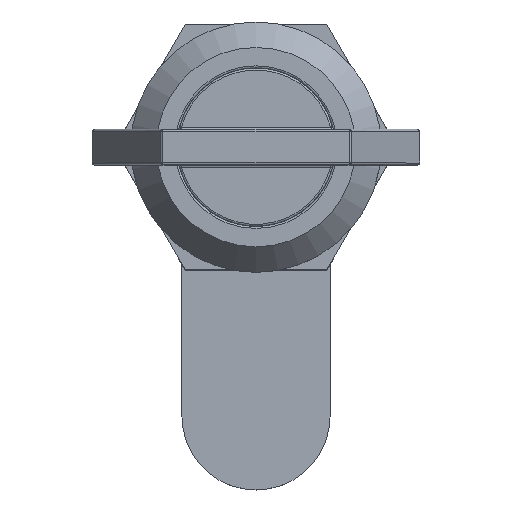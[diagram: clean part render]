
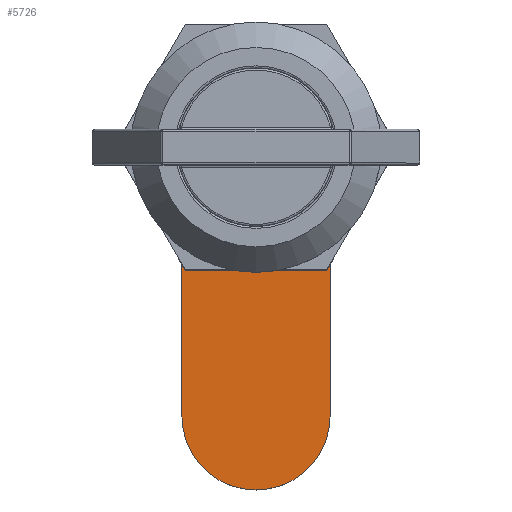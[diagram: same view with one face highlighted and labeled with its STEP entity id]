
A CAD part, top view. The second image highlights one B-rep face of the part: STEP entity #5726.
In plain terms, the highlighted planar face has unit normal (0, 0, 1) as drawn and (0, 0, -1) by its records, which use the part's own axes.
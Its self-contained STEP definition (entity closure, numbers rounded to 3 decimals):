
#264=LINE('',#9200,#854);
#268=LINE('',#9208,#858);
#271=LINE('',#9214,#861);
#274=LINE('',#9219,#864);
#278=LINE('',#9232,#868);
#282=LINE('',#9243,#872);
#854=VECTOR('',#7234,7.6);
#858=VECTOR('',#7240,7.6);
#861=VECTOR('',#7245,7.6);
#864=VECTOR('',#7250,7.6);
#868=VECTOR('',#7262,26.);
#872=VECTOR('',#7274,26.);
#1355=PLANE('',#6235);
#1548=FACE_BOUND('',#2085,.T.);
#1721=FACE_OUTER_BOUND('',#2084,.T.);
#2084=EDGE_LOOP('',(#4524,#4525,#4526,#4527));
#2085=EDGE_LOOP('',(#4528,#4529,#4530,#4531));
#2431=CIRCLE('',#6227,7.25);
#2433=CIRCLE('',#6231,7.25);
#2675=VERTEX_POINT('',#9198);
#2676=VERTEX_POINT('',#9199);
#2679=VERTEX_POINT('',#9207);
#2681=VERTEX_POINT('',#9213);
#2683=VERTEX_POINT('',#9222);
#2684=VERTEX_POINT('',#9223);
#2687=VERTEX_POINT('',#9231);
#2689=VERTEX_POINT('',#9237);
#3329=EDGE_CURVE('',#2675,#2676,#264,.T.);
#3333=EDGE_CURVE('',#2679,#2675,#268,.T.);
#3336=EDGE_CURVE('',#2681,#2679,#271,.T.);
#3339=EDGE_CURVE('',#2676,#2681,#274,.T.);
#3341=EDGE_CURVE('',#2683,#2684,#2431,.T.);
#3345=EDGE_CURVE('',#2687,#2683,#278,.T.);
#3348=EDGE_CURVE('',#2689,#2687,#2433,.T.);
#3351=EDGE_CURVE('',#2684,#2689,#282,.T.);
#4524=ORIENTED_EDGE('',*,*,#3351,.F.);
#4525=ORIENTED_EDGE('',*,*,#3341,.F.);
#4526=ORIENTED_EDGE('',*,*,#3345,.F.);
#4527=ORIENTED_EDGE('',*,*,#3348,.F.);
#4528=ORIENTED_EDGE('',*,*,#3329,.T.);
#4529=ORIENTED_EDGE('',*,*,#3339,.T.);
#4530=ORIENTED_EDGE('',*,*,#3336,.T.);
#4531=ORIENTED_EDGE('',*,*,#3333,.T.);
#5726=ADVANCED_FACE('',(#1721,#1548),#1355,.F.);
#6227=AXIS2_PLACEMENT_3D('',#9224,#7254,#7255);
#6231=AXIS2_PLACEMENT_3D('',#9238,#7267,#7268);
#6235=AXIS2_PLACEMENT_3D('',#9246,#7278,#7279);
#7234=DIRECTION('',(0.,-1.,0.));
#7240=DIRECTION('',(-1.,0.,0.));
#7245=DIRECTION('',(0.,1.,0.));
#7250=DIRECTION('',(1.,0.,0.));
#7254=DIRECTION('center_axis',(0.,0.,1.));
#7255=DIRECTION('ref_axis',(0.,1.,0.));
#7262=DIRECTION('',(-1.,0.,0.));
#7267=DIRECTION('center_axis',(0.,0.,1.));
#7268=DIRECTION('ref_axis',(0.,-1.,0.));
#7274=DIRECTION('',(1.,0.,0.));
#7278=DIRECTION('center_axis',(0.,0.,1.));
#7279=DIRECTION('ref_axis',(1.,0.,0.));
#9198=CARTESIAN_POINT('',(-3.8,3.8,0.));
#9199=CARTESIAN_POINT('',(-3.8,-3.8,0.));
#9200=CARTESIAN_POINT('',(-3.8,1.9,0.));
#9207=CARTESIAN_POINT('',(3.8,3.8,0.));
#9208=CARTESIAN_POINT('',(8.525,3.8,0.));
#9213=CARTESIAN_POINT('',(3.8,-3.8,0.));
#9214=CARTESIAN_POINT('',(3.8,-1.9,0.));
#9219=CARTESIAN_POINT('',(4.725,-3.8,0.));
#9222=CARTESIAN_POINT('',(0.25,7.25,0.));
#9223=CARTESIAN_POINT('',(0.25,-7.25,0.));
#9224=CARTESIAN_POINT('Origin',(0.25,0.,
0.));
#9231=CARTESIAN_POINT('',(26.25,7.25,0.));
#9232=CARTESIAN_POINT('',(26.25,7.25,0.));
#9237=CARTESIAN_POINT('',(26.25,-7.25,0.));
#9238=CARTESIAN_POINT('Origin',(26.25,0.,0.));
#9243=CARTESIAN_POINT('',(0.25,-7.25,0.));
#9246=CARTESIAN_POINT('Origin',(13.25,0.,0.));
